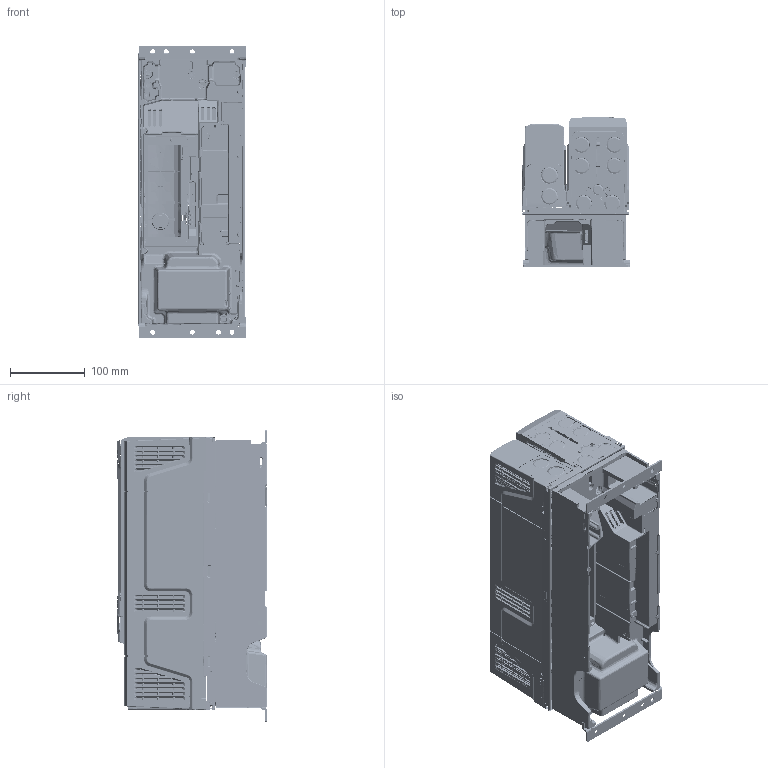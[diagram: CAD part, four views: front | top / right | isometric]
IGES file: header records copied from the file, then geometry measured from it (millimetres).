
Start section:  PTC IGES file: unim05_with_covers.igs
Global section: file name: unim05_with_covers.igs; native system: Pro/ENGINEER by Parametric Technology Corporation; preprocessor: 2011490; author: KMandokar; organization: Unknown; date: 20130906.135351; units: millimetre
Bounding box: 144 x 200.05 x 391 mm (x, y, z)
Surface area: 956743.7 mm2 (no closed solid volume)
Topology: 0 solids, 1554 shells, 6663 faces, 48179 edges, 42521 vertices
Faces by surface type: bspline 6663
